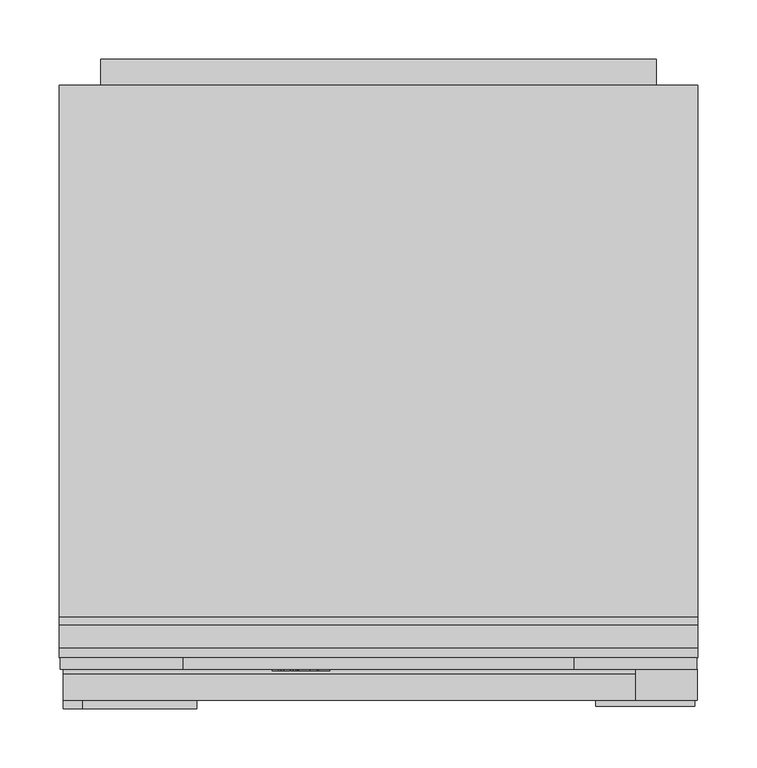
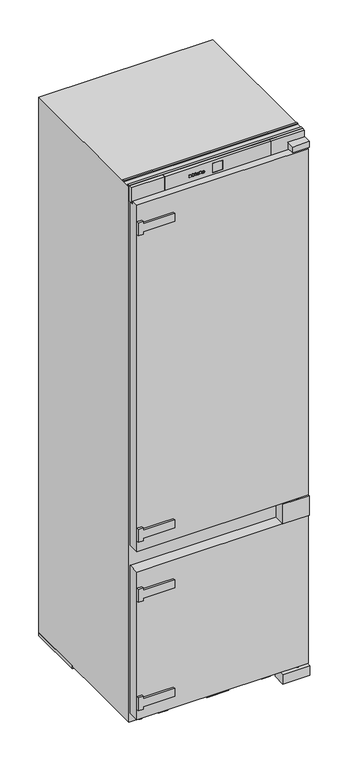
"""IFC4 building model written with IfcOpenShell, lengths in millimetres: proxy geometry, 12445020_CH_KF7731D_RE : 38773105_CH_12445020_KF7731D_RE."""

from ifc_helpers import new_model, si_unit, point, frame, frame_2d, origin, origin_with_axes, place, context, project, spatial, polyline, circle_curve, ellipse_curve, trimmed, segment, composite_curve, outline, extrude, faceted_brep, source, transform, mapped, element, save
from ifc_brep_helpers import plane_surface, cylinder_surface, revolved_surface, extruded_surface, advanced_brep


def specialty_equipment_43fbed1b(model_context):
    return source(origin(), model_context, "Body", "SolidModel", [
        advanced_brep(
        [(-46.64, 32.0, 1742.896), (-46.64, 32.0, 1743.704), (-41.288, 32.0, 1743.704), (-50.6, 32.0, 1743.704), (-48.4, 32.0, 1741.0), (-41.424, 32.0, 1742.896), (-43.84, 32.0, 1742.896), (-45.744, 32.0, 1742.0), (-46.64, 32.0, 1744.728), (-46.64, 32.0, 1745.6), (-45.272, 32.0, 1745.6), (-45.272, 32.0, 1744.728), (-46.64, 33.0, 1742.896), (-45.744, 33.0, 1742.0), (-43.84, 33.0, 1742.896), (-41.424, 33.0, 1742.896), (-48.4, 33.0, 1741.0), (-50.6, 33.0, 1743.704), (-41.288, 33.0, 1743.704), (-46.64, 33.0, 1743.704), (-46.64, 33.0, 1744.728), (-45.272, 33.0, 1744.728), (-45.272, 33.0, 1745.6), (-46.64, 33.0, 1745.6)],
        [
            (0, 1),
            (1, 2),
            (2, 3, ellipse_curve(frame((-45.944, 32.0, 1743.704), z_axis=(0.0, -1.0, 0.0), x_axis=(-1.0, 0.0, 0.0)), 4.656, 3.848)),
            (3, 4, circle_curve(frame((-47.5039564, 32.0, 1743.976), z_axis=(0.0, -1.0, 0.0), x_axis=(0.0, 0.0, -1.0)), 3.1079688)),
            (4, 5, circle_curve(frame((-46.0372064, 32.0, 1746.088), z_axis=(0.0, -1.0, 0.0), x_axis=(0.0, 0.0, -1.0)), 5.6098607)),
            (5, 6),
            (6, 7, circle_curve(frame((-45.3529412, 32.0, 1743.64), z_axis=(0.0, 1.0, 0.0), x_axis=(0.0, 0.0, -1.0)), 1.6859795)),
            (7, 0, circle_curve(frame((-45.744, 32.0, 1742.896), z_axis=(0.0, 1.0, 0.0), x_axis=(0.0, 0.0, -1.0)), 0.896)),
            (8, 9),
            (9, 10, circle_curve(frame((-45.956, 32.0, 1745.6), z_axis=(0.0, 1.0, 0.0), x_axis=(0.0, 0.0, -1.0)), 0.684)),
            (10, 11),
            (11, 8),
            (12, 13, circle_curve(frame((-45.744, 33.0, 1742.896), z_axis=(0.0, -1.0, 0.0), x_axis=(0.0, 0.0, -1.0)), 0.896)),
            (13, 14, circle_curve(frame((-45.3529412, 33.0, 1743.64), z_axis=(0.0, -1.0, 0.0), x_axis=(0.0, 0.0, -1.0)), 1.6859795)),
            (14, 15),
            (15, 16, circle_curve(frame((-46.0372064, 33.0, 1746.088), z_axis=(0.0, 1.0, 0.0), x_axis=(0.0, 0.0, -1.0)), 5.6098607)),
            (16, 17, circle_curve(frame((-47.5039564, 33.0, 1743.976), z_axis=(0.0, 1.0, 0.0), x_axis=(0.0, 0.0, -1.0)), 3.1079688)),
            (17, 18, ellipse_curve(frame((-45.944, 33.0, 1743.704), z_axis=(0.0, 1.0, 0.0), x_axis=(-1.0, 0.0, 0.0)), 4.656, 3.848)),
            (18, 19),
            (19, 12),
            (20, 21),
            (21, 22),
            (22, 23, circle_curve(frame((-45.956, 33.0, 1745.6), z_axis=(0.0, -1.0, 0.0), x_axis=(0.0, 0.0, -1.0)), 0.684)),
            (23, 20),
            (0, 12),
            (19, 1),
            (18, 2),
            (5, 15),
            (14, 6),
            (17, 3),
            (13, 7),
            (16, 4),
            (8, 20),
            (23, 9),
            (22, 10),
            (21, 11),
        ],
        [
            plane_surface(frame((-46.64, 32.0, 1743.704), z_axis=(0.0, -1.0, 0.0), x_axis=(0.0, 0.0, 1.0))),
            plane_surface(frame((-46.64, 33.0, 1743.704), z_axis=(0.0, 1.0, 0.0), x_axis=(0.0, 0.0, -1.0))),
            plane_surface(frame((-46.64, 32.0, 1742.896), z_axis=(1.0, 0.0, 0.0), x_axis=(0.0, 1.0, 0.0))),
            plane_surface(frame((-46.64, 32.0, 1743.704), z_axis=(0.0, 0.0, -1.0), x_axis=(0.0, 1.0, 0.0))),
            plane_surface(frame((-41.424, 32.0, 1742.896), z_axis=(0.0, 0.0, 1.0), x_axis=(0.0, 1.0, 0.0))),
            extruded_surface(trimmed(ellipse_curve(frame((-45.944, 34.0, 1743.704), z_axis=(0.0, -1.0, 0.0), x_axis=(-1.0, 0.0, 0.0)), 4.656, 3.848), [point((-41.288, 34.0, 1743.704))], [point((-50.6, 34.0, 1743.704))], True, "CARTESIAN"), (0.0, -1.0, 0.0), 1.0),
            revolved_surface(polyline([(-45.3529412, 33.0, 1741.9540205), (-45.3529412, 32.0, 1741.9540205)]), (-45.3529412, 33.0, 1743.64), (0.0, 1.0, 0.0)),
            revolved_surface(polyline([(-45.744, 33.0, 1742.0), (-45.744, 32.0, 1742.0)]), (-45.744, 33.0, 1742.896), (0.0, 1.0, 0.0)),
            cylinder_surface(frame((-47.5039564, 33.0, 1743.976), z_axis=(0.0, -1.0, 0.0), x_axis=(0.0, 0.0, -1.0)), 3.1079688),
            cylinder_surface(frame((-46.0372064, 33.0, 1746.088), z_axis=(0.0, -1.0, 0.0), x_axis=(0.0, 0.0, -1.0)), 5.6098607),
            plane_surface(frame((-46.64, 32.0, 1744.728), z_axis=(1.0, 0.0, 0.0), x_axis=(0.0, 1.0, 0.0))),
            revolved_surface(polyline([(-45.956, 33.0, 1744.916), (-45.956, 32.0, 1744.916)]), (-45.956, 33.0, 1745.6), (0.0, 1.0, 0.0)),
            plane_surface(frame((-45.272, 32.0, 1745.6), z_axis=(-1.0, 0.0, 0.0), x_axis=(0.0, 1.0, 0.0))),
            plane_surface(frame((-45.272, 32.0, 1744.728), z_axis=(0.0, 0.0, 1.0), x_axis=(0.0, 1.0, 0.0))),
        ],
        [
            (0, [[1, 2, 3, 4, 5, 6, 7, 8], [9, 10, 11, 12]]),
            (1, [[13, 14, 15, 16, 17, 18, 19, 20], [21, 22, 23, 24]]),
            (2, [[-1, 25, -20, 26]]),
            (3, [[-2, -26, -19, 27]]),
            (4, [[-6, 28, -15, 29]]),
            (5, [[-3, -27, -18, 30]]),
            (6, [[-7, -29, -14, 31]]),
            (7, [[-8, -31, -13, -25]]),
            (8, [[-4, -30, -17, 32]]),
            (9, [[-5, -32, -16, -28]]),
            (10, [[-9, 33, -24, 34]]),
            (11, [[-10, -34, -23, 35]]),
            (12, [[-11, -35, -22, 36]]),
            (13, [[-12, -36, -21, -33]]),
        ],
    ),
        advanced_brep(
        [(-63.336, 32.0, 1742.896), (-63.336, 32.0, 1743.704), (-57.984, 32.0, 1743.704), (-67.296, 32.0, 1743.704), (-65.096, 32.0, 1741.0), (-58.12, 32.0, 1742.896), (-60.536, 32.0, 1742.896), (-62.44, 32.0, 1742.0), (-63.336, 32.0, 1744.728), (-63.336, 32.0, 1745.6), (-61.968, 32.0, 1745.6), (-61.968, 32.0, 1744.728), (-63.336, 33.0, 1742.896), (-62.44, 33.0, 1742.0), (-60.536, 33.0, 1742.896), (-58.12, 33.0, 1742.896), (-65.096, 33.0, 1741.0), (-67.296, 33.0, 1743.704), (-57.984, 33.0, 1743.704), (-63.336, 33.0, 1743.704), (-63.336, 33.0, 1744.728), (-61.968, 33.0, 1744.728), (-61.968, 33.0, 1745.6), (-63.336, 33.0, 1745.6)],
        [
            (0, 1),
            (1, 2),
            (2, 3, ellipse_curve(frame((-62.64, 32.0, 1743.704), z_axis=(0.0, -1.0, 0.0), x_axis=(-1.0, 0.0, 0.0)), 4.656, 3.848)),
            (3, 4, circle_curve(frame((-64.1999564, 32.0, 1743.976), z_axis=(0.0, -1.0, 0.0), x_axis=(0.0, 0.0, -1.0)), 3.1079688)),
            (4, 5, circle_curve(frame((-62.7332064, 32.0, 1746.088), z_axis=(0.0, -1.0, 0.0), x_axis=(0.0, 0.0, -1.0)), 5.6098607)),
            (5, 6),
            (6, 7, circle_curve(frame((-62.0489412, 32.0, 1743.64), z_axis=(0.0, 1.0, 0.0), x_axis=(0.0, 0.0, -1.0)), 1.6859795)),
            (7, 0, circle_curve(frame((-62.44, 32.0, 1742.896), z_axis=(0.0, 1.0, 0.0), x_axis=(0.0, 0.0, -1.0)), 0.896)),
            (8, 9),
            (9, 10, circle_curve(frame((-62.652, 32.0, 1745.6), z_axis=(0.0, 1.0, 0.0), x_axis=(0.0, 0.0, -1.0)), 0.684)),
            (10, 11),
            (11, 8),
            (12, 13, circle_curve(frame((-62.44, 33.0, 1742.896), z_axis=(0.0, -1.0, 0.0), x_axis=(0.0, 0.0, -1.0)), 0.896)),
            (13, 14, circle_curve(frame((-62.0489412, 33.0, 1743.64), z_axis=(0.0, -1.0, 0.0), x_axis=(0.0, 0.0, -1.0)), 1.6859795)),
            (14, 15),
            (15, 16, circle_curve(frame((-62.7332064, 33.0, 1746.088), z_axis=(0.0, 1.0, 0.0), x_axis=(0.0, 0.0, -1.0)), 5.6098607)),
            (16, 17, circle_curve(frame((-64.1999564, 33.0, 1743.976), z_axis=(0.0, 1.0, 0.0), x_axis=(0.0, 0.0, -1.0)), 3.1079688)),
            (17, 18, ellipse_curve(frame((-62.64, 33.0, 1743.704), z_axis=(0.0, 1.0, 0.0), x_axis=(-1.0, 0.0, 0.0)), 4.656, 3.848)),
            (18, 19),
            (19, 12),
            (20, 21),
            (21, 22),
            (22, 23, circle_curve(frame((-62.652, 33.0, 1745.6), z_axis=(0.0, -1.0, 0.0), x_axis=(0.0, 0.0, -1.0)), 0.684)),
            (23, 20),
            (0, 12),
            (19, 1),
            (18, 2),
            (5, 15),
            (14, 6),
            (17, 3),
            (13, 7),
            (16, 4),
            (8, 20),
            (23, 9),
            (22, 10),
            (21, 11),
        ],
        [
            plane_surface(frame((-63.336, 32.0, 1743.704), z_axis=(0.0, -1.0, 0.0), x_axis=(0.0, 0.0, 1.0))),
            plane_surface(frame((-63.336, 33.0, 1743.704), z_axis=(0.0, 1.0, 0.0), x_axis=(0.0, 0.0, -1.0))),
            plane_surface(frame((-63.336, 32.0, 1742.896), z_axis=(1.0, 0.0, 0.0), x_axis=(0.0, 1.0, 0.0))),
            plane_surface(frame((-63.336, 32.0, 1743.704), z_axis=(0.0, 0.0, -1.0), x_axis=(0.0, 1.0, 0.0))),
            plane_surface(frame((-58.12, 32.0, 1742.896), z_axis=(0.0, 0.0, 1.0), x_axis=(0.0, 1.0, 0.0))),
            extruded_surface(trimmed(ellipse_curve(frame((-62.64, 34.0, 1743.704), z_axis=(0.0, -1.0, 0.0), x_axis=(-1.0, 0.0, 0.0)), 4.656, 3.848), [point((-57.984, 34.0, 1743.704))], [point((-67.296, 34.0, 1743.704))], True, "CARTESIAN"), (0.0, -1.0, 0.0), 1.0),
            revolved_surface(polyline([(-62.0489412, 33.0, 1741.9540205), (-62.0489412, 32.0, 1741.9540205)]), (-62.0489412, 33.0, 1743.64), (0.0, 1.0, 0.0)),
            revolved_surface(polyline([(-62.44, 33.0, 1742.0), (-62.44, 32.0, 1742.0)]), (-62.44, 33.0, 1742.896), (0.0, 1.0, 0.0)),
            cylinder_surface(frame((-64.1999564, 33.0, 1743.976), z_axis=(0.0, -1.0, 0.0), x_axis=(0.0, 0.0, -1.0)), 3.1079688),
            cylinder_surface(frame((-62.7332064, 33.0, 1746.088), z_axis=(0.0, -1.0, 0.0), x_axis=(0.0, 0.0, -1.0)), 5.6098607),
            plane_surface(frame((-63.336, 32.0, 1744.728), z_axis=(1.0, 0.0, 0.0), x_axis=(0.0, 1.0, 0.0))),
            revolved_surface(polyline([(-62.652, 33.0, 1744.916), (-62.652, 32.0, 1744.916)]), (-62.652, 33.0, 1745.6), (0.0, 1.0, 0.0)),
            plane_surface(frame((-61.968, 32.0, 1745.6), z_axis=(-1.0, 0.0, 0.0), x_axis=(0.0, 1.0, 0.0))),
            plane_surface(frame((-61.968, 32.0, 1744.728), z_axis=(0.0, 0.0, 1.0), x_axis=(0.0, 1.0, 0.0))),
        ],
        [
            (0, [[1, 2, 3, 4, 5, 6, 7, 8], [9, 10, 11, 12]]),
            (1, [[13, 14, 15, 16, 17, 18, 19, 20], [21, 22, 23, 24]]),
            (2, [[-1, 25, -20, 26]]),
            (3, [[-2, -26, -19, 27]]),
            (4, [[-6, 28, -15, 29]]),
            (5, [[-3, -27, -18, 30]]),
            (6, [[-7, -29, -14, 31]]),
            (7, [[-8, -31, -13, -25]]),
            (8, [[-4, -30, -17, 32]]),
            (9, [[-5, -32, -16, -28]]),
            (10, [[-9, 33, -24, 34]]),
            (11, [[-10, -34, -23, 35]]),
            (12, [[-11, -35, -22, 36]]),
            (13, [[-12, -36, -21, -33]]),
        ],
    ),
        extrude(outline(polyline([(1748.528, -72.08), (1747.232, -71.472), (1748.496, -68.76), (1749.792, -69.36), (1748.528, -72.08)])), frame((0.0, 32.0, 0.0), z_axis=(0.0, 1.0, 0.0), x_axis=(0.0, 0.0, 1.0)), (0.0, 0.0, 1.0), 1.0),
        extrude(outline(polyline([(1747.056, -74.056), (1745.624, -74.056), (1745.624, -73.104), (1742.344, -73.104), (1742.344, -74.056), (1741.0, -74.056), (1741.0, -67.744), (1742.344, -67.744), (1742.344, -68.672), (1747.056, -68.672), (1747.056, -74.056)])), frame((0.0, 32.0, 0.0), z_axis=(0.0, 1.0, 0.0), x_axis=(0.0, 0.0, 1.0)), (0.0, 0.0, 1.0), 1.0),
        extrude(outline(polyline([(1747.696, -57.536), (1747.696, -56.576), (1742.344, -56.576), (1742.344, -57.536), (1741.0, -57.536), (1741.0, -51.048), (1742.344, -51.048), (1742.344, -52.032), (1749.0, -52.032), (1749.0, -57.536), (1747.696, -57.536)])), frame((0.0, 32.0, 0.0), z_axis=(0.0, 1.0, 0.0), x_axis=(0.0, 0.0, 1.0)), (0.0, 0.0, 1.0), 1.0),
        extrude(outline(polyline([(1747.696, -90.0), (1747.696, -89.032), (1742.344, -89.032), (1742.344, -90.0), (1741.0, -90.0), (1741.0, -86.48), (1742.344, -86.48), (1742.344, -87.44), (1745.7471247, -87.44), (1741.0, -83.864), (1745.8152223, -80.272), (1742.344, -80.272), (1742.344, -81.256), (1741.0, -81.256), (1741.0, -74.872), (1742.344, -74.872), (1742.344, -75.888), (1747.696, -75.888), (1747.696, -74.872), (1749.0, -74.872), (1749.0, -79.744), (1746.0, -82.08), (1749.0, -84.424), (1749.0, -90.0), (1747.696, -90.0)])), frame((0.0, 32.0, 0.0), z_axis=(0.0, 1.0, 0.0), x_axis=(0.0, 0.0, 1.0)), (0.0, 0.0, 1.0), 1.0),
        extrude(outline(polyline([(470.0, -250.5), (470.0, -266.5), (428.0, -266.5), (428.0, -250.5), (436.0, -250.5), (436.0, -153.5), (462.0, -153.5), (462.0, -250.5), (470.0, -250.5)])), frame((0.0, 0.0, 0.0), z_axis=(0.0, 1.0, 0.0), x_axis=(0.0, 0.0, 1.0)), (0.0, 0.0, 1.0), 7.0),
        extrude(outline(polyline([(114.0, -250.5), (114.0, -266.5), (72.0, -266.5), (72.0, -250.5), (80.0, -250.5), (80.0, -153.5), (106.0, -153.5), (106.0, -250.5), (114.0, -250.5)])), frame((0.0, 0.0, 0.0), z_axis=(0.0, 1.0, 0.0), x_axis=(0.0, 0.0, 1.0)), (0.0, 0.0, 1.0), 7.0),
        extrude(outline(polyline([(1631.0, -266.5), (1631.0, -250.5), (1639.0, -250.5), (1639.0, -153.5), (1665.0, -153.5), (1665.0, -250.5), (1673.0, -250.5), (1673.0, -266.5), (1631.0, -266.5)])), frame((0.0, 0.0, 0.0), z_axis=(0.0, 1.0, 0.0), x_axis=(0.0, 0.0, 1.0)), (0.0, 0.0, 1.0), 7.0),
        extrude(outline(polyline([(625.0, -266.5), (625.0, -250.5), (633.0, -250.5), (633.0, -153.5), (659.0, -153.5), (659.0, -250.5), (667.0, -250.5), (667.0, -266.5), (625.0, -266.5)])), frame((0.0, 0.0, 0.0), z_axis=(0.0, 1.0, 0.0), x_axis=(0.0, 0.0, 1.0)), (0.0, 0.0, 1.0), 7.0),
        extrude(outline(polyline([(7.0, 590.0), (7.0, 1727.0), (29.0, 1727.0), (29.0, 1715.0), (43.0, 1715.0), (43.0, 590.0), (7.0, 590.0)])), frame((-266.5, 0.0, 0.0), z_axis=(1.0, 0.0, 0.0), x_axis=(0.0, 1.0, 0.0)), (0.0, 0.0, 1.0), 533.0),
        extrude(outline(polyline([(268.5, 7.0), (186.5, 7.0), (186.5, 43.0), (268.5, 43.0), (268.5, 7.0)]), holes=[composite_curve([segment(trimmed(circle_curve(frame_2d((236.5, 16.0)), 6.0), [point((242.5, 16.0))], [point((230.5, 16.0))], True, "CARTESIAN"), True, "CONTINUOUS"), segment(trimmed(circle_curve(frame_2d((236.5, 16.0)), 6.0), [point((230.5, 16.0))], [point((242.5, 16.0))], True, "CARTESIAN"), True, "CONTINUOUS")], self_intersect=False)]), frame((0.0, 0.0, 523.0), z_axis=(0.0, 0.0, 1.0), x_axis=(1.0, 0.0, 0.0)), (0.0, 0.0, 1.0), 64.0),
        extrude(outline(polyline([(183.5, 43.0), (267.5, 43.0), (267.5, 2.0), (183.5, 2.0), (183.5, 43.0)])), frame((0.0, 0.0, 1.0), z_axis=(0.0, 0.0, 1.0), x_axis=(1.0, 0.0, 0.0)), (0.0, 0.0, 1.0), 31.0),
        extrude(outline(polyline([(269.5, 7.0), (217.5, 7.0), (217.5, 33.0), (269.5, 33.0), (269.5, 7.0)])), frame((0.0, 0.0, 1730.0), z_axis=(0.0, 0.0, 1.0), x_axis=(1.0, 0.0, 0.0)), (0.0, 0.0, 1.0), 19.0),
        extrude(outline(polyline([(-266.5, 43.0), (266.5, 43.0), (266.5, 7.0), (-266.5, 7.0), (-266.5, 43.0)])), frame((0.0, 0.0, 38.0), z_axis=(0.0, 0.0, 1.0), x_axis=(1.0, 0.0, 0.0)), (0.0, 0.0, 1.0), 485.0),
        extrude(outline(composite_curve([segment(trimmed(circle_curve(frame_2d((236.5, 16.0)), 6.0), [point((242.5, 16.0))], [point((230.5, 16.0))], False, "CARTESIAN"), True, "CONTINUOUS"), segment(trimmed(circle_curve(frame_2d((236.5, 16.0)), 6.0), [point((230.5, 16.0))], [point((242.5, 16.0))], False, "CARTESIAN"), True, "CONTINUOUS")], self_intersect=False)), frame((0.0, 0.0, 523.0), z_axis=(0.0, 0.0, 1.0), x_axis=(1.0, 0.0, 0.0)), (0.0, 0.0, 1.0), 67.0),
        extrude(outline(composite_curve([segment(trimmed(circle_curve(frame_2d((236.5, 16.0)), 6.0), [point((236.5, 22.0))], [point((236.5, 10.0))], False, "CARTESIAN"), True, "CONTINUOUS"), segment(trimmed(circle_curve(frame_2d((236.5, 16.0)), 6.0), [point((236.5, 10.0))], [point((236.5, 22.0))], False, "CARTESIAN"), True, "CONTINUOUS")], self_intersect=False)), frame((0.0, 0.0, 1727.0), z_axis=(0.0, 0.0, 1.0), x_axis=(1.0, 0.0, 0.0)), (0.0, 0.0, 1.0), 3.0),
        extrude(outline(composite_curve([segment(trimmed(circle_curve(frame_2d((236.5, 16.0)), 6.0), [point((242.5, 16.0))], [point((230.5, 16.0))], False, "CARTESIAN"), True, "CONTINUOUS"), segment(trimmed(circle_curve(frame_2d((236.5, 16.0)), 6.0), [point((230.5, 16.0))], [point((242.5, 16.0))], False, "CARTESIAN"), True, "CONTINUOUS")], self_intersect=False)), frame((0.0, 0.0, 32.0), z_axis=(0.0, 0.0, 1.0), x_axis=(1.0, 0.0, 0.0)), (0.0, 0.0, 1.0), 6.0),
        faceted_brep([(165.0, 33.0, 1770.0), (-165.0, 33.0, 1770.0), (-165.0, 33.0, 1721.0), (165.0, 33.0, 1721.0), (15.0, 33.0, 1761.0), (15.0, 33.0, 1731.0), (-15.0, 33.0, 1731.0), (-15.0, 33.0, 1761.0), (165.0, 43.0, 1770.0), (165.0, 43.0, 1721.0), (-165.0, 43.0, 1721.0), (-165.0, 43.0, 1770.0), (15.0, 34.0, 1761.0), (-15.0, 34.0, 1761.0), (-15.0, 34.0, 1731.0), (15.0, 34.0, 1731.0)], [[[0, 1, 2, 3], [4, 5, 6, 7]], [[8, 9, 10, 11]], [[0, 3, 9, 8]], [[3, 2, 10, 9]], [[2, 1, 11, 10]], [[1, 0, 8, 11]], [[12, 13, 14, 15]], [[12, 15, 5, 4]], [[15, 14, 6, 5]], [[14, 13, 7, 6]], [[13, 12, 4, 7]]]),
        extrude(outline(polyline([(165.0, 43.0), (269.0, 43.0), (269.0, 33.0), (165.0, 33.0), (165.0, 43.0)])), frame((0.0, 0.0, 1721.0), z_axis=(0.0, 0.0, 1.0), x_axis=(1.0, 0.0, 0.0)), (0.0, 0.0, 1.0), 49.0),
        extrude(outline(polyline([(-269.0, 43.0), (-165.0, 43.0), (-165.0, 33.0), (-269.0, 33.0), (-269.0, 43.0)])), frame((0.0, 0.0, 1721.0), z_axis=(0.0, 0.0, 1.0), x_axis=(1.0, 0.0, 0.0)), (0.0, 0.0, 1.0), 49.0),
        extrude(outline(polyline([(-15.0, 34.0), (15.0, 34.0), (15.0, 33.0), (-15.0, 33.0), (-15.0, 34.0)])), frame((0.0, 0.0, 1731.0), z_axis=(0.0, 0.0, 1.0), x_axis=(1.0, 0.0, 0.0)), (0.0, 0.0, 1.0), 30.0),
        extrude(outline(polyline([(1647.0, -235.0), (27.0, -235.0), (27.0, 235.0), (130.0, 235.0), (130.0, 180.0), (160.0, 180.0), (160.0, 235.0), (1647.0, 235.0), (1647.0, -235.0)])), frame((0.0, 527.0, 0.0), z_axis=(0.0, 1.0, 0.0), x_axis=(0.0, 0.0, 1.0)), (0.0, 0.0, 1.0), 22.0),
        extrude(outline(polyline([(-144.929185, 51.0), (-174.0, 51.0), (-194.6983363, 347.0), (-165.6275213, 347.0), (-144.929185, 51.0)])), origin_with_axes(), (0.0, 0.0, 1.0), 10.0),
        extrude(outline(polyline([(144.929185, 51.0), (165.6275213, 347.0), (194.6983363, 347.0), (174.0, 51.0), (144.929185, 51.0)])), origin_with_axes(), (0.0, 0.0, 1.0), 10.0),
        extrude(outline(polyline([(540.4384039, 149.874164), (547.6647626, 149.874164), (547.6647626, 139.824714), (540.2826236, 139.824714), (540.2826236, 141.0836119), (546.4056247, 141.0836119), (546.4056247, 144.3750411), (540.7614845, 144.3750411), (540.7614845, 145.6249589), (546.4056247, 145.6249589), (546.4056247, 148.6148402), (540.4384039, 148.6148402), (540.4384039, 149.874164)])), frame((194.0, 0.0, 0.0), z_axis=(1.0, 0.0, 0.0), x_axis=(0.0, 1.0, 0.0)), (0.0, 0.0, 1.0), 1.0),
        extrude(outline(polyline([(537.1383052, 149.8716162), (538.399354, 149.8716162), (538.399354, 139.824714), (532.1225656, 139.824714), (532.1225656, 141.0927041), (537.1383052, 141.0927041), (537.1383052, 149.8716162)])), frame((194.0, 0.0, 0.0), z_axis=(1.0, 0.0, 0.0), x_axis=(0.0, 1.0, 0.0)), (0.0, 0.0, 1.0), 1.0),
        advanced_brep(
        [(232.5, 527.0, 145.0), (217.5, 527.0, 145.0), (232.5, 548.5, 145.0), (217.5, 533.5, 145.0), (195.0, 548.5, 145.0), (195.0, 533.5, 145.0)],
        [
            (0, 1, circle_curve(frame((225.0, 527.0, 145.0), z_axis=(0.0, -1.0, 0.0), x_axis=(-1.0, 0.0, 0.0)), 7.5)),
            (1, 0, circle_curve(frame((225.0, 527.0, 145.0), z_axis=(0.0, -1.0, 0.0), x_axis=(-1.0, 0.0, 0.0)), 7.5)),
            (0, 2),
            (2, 3, ellipse_curve(frame((225.0, 541.0, 145.0), z_axis=(0.7071067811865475, -0.7071067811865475, 0.0), x_axis=(-0.7071067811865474, -0.7071067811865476, 0.0)), 10.6066017, 7.5)),
            (3, 1),
            (3, 2, ellipse_curve(frame((225.0, 541.0, 145.0), z_axis=(0.7071067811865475, -0.7071067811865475, 0.0), x_axis=(-0.7071067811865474, -0.7071067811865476, 0.0)), 10.6066017, 7.5)),
            (4, 5, circle_curve(frame((195.0, 541.0, 145.0), z_axis=(-1.0, 0.0, 0.0), x_axis=(0.0, -1.0, 0.0)), 7.5)),
            (5, 4, circle_curve(frame((195.0, 541.0, 145.0), z_axis=(-1.0, 0.0, 0.0), x_axis=(0.0, -1.0, 0.0)), 7.5)),
            (2, 4),
            (5, 3),
        ],
        [
            plane_surface(frame((225.0, 527.0, 145.0), z_axis=(0.0, -1.0, 0.0), x_axis=(0.0, 0.0, 1.0))),
            cylinder_surface(frame((225.0, 527.0, 145.0), z_axis=(0.0, -1.0, 0.0), x_axis=(-1.0, 0.0, 0.0)), 7.5),
            plane_surface(frame((195.0, 541.0, 145.0), z_axis=(-1.0, 0.0, 0.0), x_axis=(0.0, 0.0, 1.0))),
            cylinder_surface(frame((225.0, 541.0, 145.0), z_axis=(1.0, 0.0, 0.0), x_axis=(0.0, -1.0, 0.0)), 7.5),
        ],
        [
            (0, [[1, 2]]),
            (1, [[-1, 3, 4, 5]]),
            (1, [[-2, -5, 6, -3]]),
            (2, [[7, 8]]),
            (3, [[-4, 9, -8, 10]]),
            (3, [[-6, -10, -7, -9]]),
        ],
    ),
        extrude(outline(polyline([(-34.0, 43.0), (34.0, 43.0), (34.0, 34.0), (-34.0, 34.0), (-34.0, 43.0)])), frame((0.0, 0.0, 13.0), z_axis=(0.0, 0.0, 1.0), x_axis=(1.0, 0.0, 0.0)), (0.0, 0.0, 1.0), 19.0),
        extrude(outline(polyline([(270.0, 51.0), (270.0, 43.0), (-270.0, 43.0), (-270.0, 51.0), (270.0, 51.0)])), frame((0.0, 0.0, 1767.0), z_axis=(0.0, 0.0, 1.0), x_axis=(1.0, 0.0, 0.0)), (0.0, 0.0, 1.0), 3.0),
        extrude(outline(polyline([(270.0, 77.0), (270.0, 71.0), (-270.0, 71.0), (-270.0, 77.0), (270.0, 77.0)])), frame((0.0, 0.0, 1767.0), z_axis=(0.0, 0.0, 1.0), x_axis=(1.0, 0.0, 0.0)), (0.0, 0.0, 1.0), 3.0),
        extrude(outline(polyline([(-234.0, 43.0), (-234.0, 489.0), (234.0, 489.0), (234.0, 43.0), (-234.0, 43.0)])), frame((0.0, 0.0, 814.0), z_axis=(0.0, 0.0, 1.0), x_axis=(1.0, 0.0, 0.0)), (0.0, 0.0, 1.0), 3.0),
        extrude(outline(polyline([(-209.0, 311.0), (-209.0, 450.0), (209.0, 450.0), (209.0, 311.0), (-209.0, 311.0)])), frame((0.0, 0.0, 93.0), z_axis=(0.0, 0.0, 1.0), x_axis=(1.0, 0.0, 0.0)), (0.0, 0.0, 1.0), 200.0),
        extrude(outline(composite_curve([segment(trimmed(circle_curve(frame_2d((228.0, 63.0)), 11.0), [point((239.0, 63.0))], [point((217.0, 63.0))], False, "CARTESIAN"), True, "CONTINUOUS"), segment(trimmed(circle_curve(frame_2d((228.0, 63.0)), 11.0), [point((217.0, 63.0))], [point((239.0, 63.0))], False, "CARTESIAN"), True, "CONTINUOUS")], self_intersect=False)), origin_with_axes(), (0.0, 0.0, 1.0), 10.0),
        extrude(outline(composite_curve([segment(trimmed(circle_curve(frame_2d((-228.0, 63.0)), 11.0), [point((-217.0, 63.0))], [point((-239.0, 63.0))], False, "CARTESIAN"), True, "CONTINUOUS"), segment(trimmed(circle_curve(frame_2d((-228.0, 63.0)), 11.0), [point((-239.0, 63.0))], [point((-217.0, 63.0))], False, "CARTESIAN"), True, "CONTINUOUS")], self_intersect=False)), origin_with_axes(), (0.0, 0.0, 1.0), 10.0),
        extrude(outline(polyline([(270.0, 527.0), (270.0, 347.0), (-270.0, 347.0), (-270.0, 527.0), (270.0, 527.0)])), origin_with_axes(), (0.0, 0.0, 1.0), 10.0),
        faceted_brep([(270.0, 527.0, 1767.0), (-270.0, 527.0, 1767.0), (-270.0, 43.0, 1767.0), (270.0, 43.0, 1767.0), (270.0, 527.0, 10.0), (270.0, 43.0, 10.0), (-270.0, 43.0, 10.0), (-270.0, 527.0, 10.0), (234.0, 43.0, 1692.0), (234.0, 43.0, 619.0), (-234.0, 43.0, 619.0), (-234.0, 43.0, 1692.0), (209.0, 43.0, 473.0), (209.0, 43.0, 93.0), (-209.0, 43.0, 93.0), (-209.0, 43.0, 473.0), (234.0, 489.0, 1692.0), (-234.0, 489.0, 1692.0), (-234.0, 489.0, 619.0), (234.0, 489.0, 619.0), (209.0, 450.0, 473.0), (209.0, 450.0, 93.0), (-209.0, 450.0, 473.0), (-209.0, 450.0, 93.0)], [[[0, 1, 2, 3]], [[4, 5, 6, 7]], [[1, 0, 4, 7]], [[2, 1, 7, 6]], [[3, 2, 6, 5], [8, 9, 10, 11], [12, 13, 14, 15]], [[0, 3, 5, 4]], [[16, 17, 18, 19]], [[16, 19, 9, 8]], [[19, 18, 10, 9]], [[18, 17, 11, 10]], [[17, 16, 8, 11]], [[20, 21, 13, 12]], [[22, 15, 14, 23]], [[21, 20, 22, 23]], [[13, 21, 23, 14]], [[20, 12, 15, 22]]]),
    ])


if __name__ == "__main__":
    model = new_model("IFC4")
    model_context = context("Model", 3, world=origin())
    ifc_project = project(units=[si_unit("LENGTHUNIT", "METRE", prefix="MILLI")], contexts=[model_context])
    site = spatial("IfcSite", under=ifc_project)
    building = spatial("IfcBuilding", under=site)
    placement = place(None, origin())
    specialty_equipment_shape = specialty_equipment_43fbed1b(model_context)
    element("IfcBuildingElementProxy", 1, Name="12445020_CH_KF7731D_RE : 38773105_CH_12445020_KF7731D_RE", ObjectType="12445020_CH_KF7731D_RE : 38773105_CH_12445020_KF7731D_RE", at=placement, inside=building, context=model_context, shape_type="MappedRepresentation", body=[
        mapped(specialty_equipment_shape, transform((0.0, 0.0, 0.0), x_axis=(1.0, 0.0, 0.0), y_axis=(0.0, 1.0, 0.0), z_axis=(0.0, 0.0, 1.0))),
    ])
    save(model, "model.ifc")
